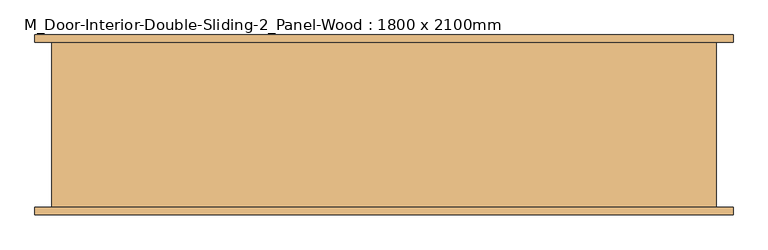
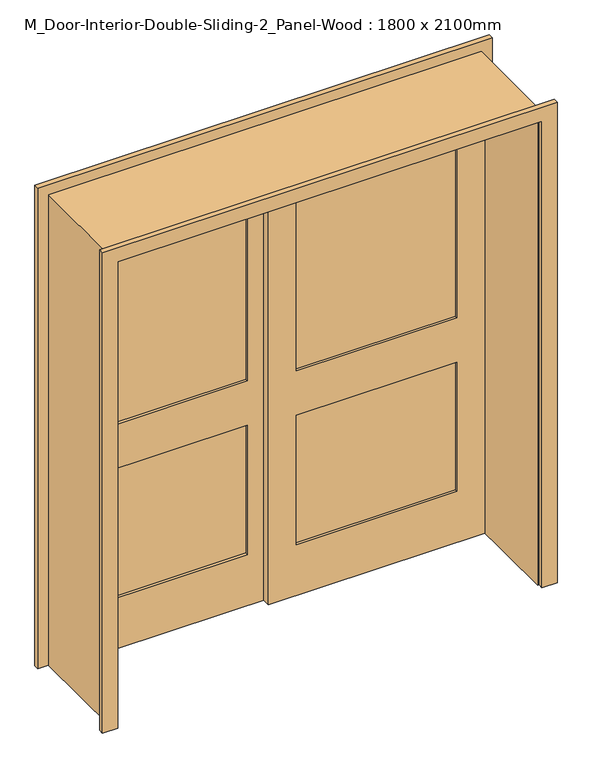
"""IFC4 building model written with IfcOpenShell, lengths in millimetres: door geometry, M_Door-Interior-Double-Sliding-2_Panel-Wood : 1800 x 2100mm."""

from ifc_helpers import new_model, si_unit, frame, origin, place, context, project, spatial, polyline, outline, extrude, source, transform, mapped, element, save


def m_door_interior_double_sliding_2_panel_wood_1800_x_2100mm_ffb2e57d(model_context):
    return source(origin(), model_context, "Body", "SweptSolid", [
        extrude(outline(polyline([(780.0, 168.4916667), (94.6, 168.4916667), (94.6, 180.1583333), (780.0, 180.1583333), (780.0, 168.4916667)])), frame((0.0, 0.0, 1014.4), z_axis=(0.0, 0.0, 1.0), x_axis=(1.0, 0.0, 0.0)), (0.0, 0.0, 1.0), 965.6),
        extrude(outline(polyline([(780.0, 168.4916667), (94.6, 168.4916667), (94.6, 180.1583333), (780.0, 180.1583333), (780.0, 168.4916667)])), frame((0.0, 0.0, 230.0), z_axis=(0.0, 0.0, 1.0), x_axis=(1.0, 0.0, 0.0)), (0.0, 0.0, 1.0), 584.4),
        extrude(outline(polyline([(2100.0, -25.4), (0.0, -25.4), (0.0, 900.0), (2100.0, 900.0), (2100.0, -25.4)]), holes=[polyline([(1980.0, 94.6), (1980.0, 780.0), (1014.4, 780.0), (1014.4, 94.6), (1980.0, 94.6)]), polyline([(814.4, 94.6), (814.4, 780.0), (230.0, 780.0), (230.0, 94.6), (814.4, 94.6)])]), frame((0.0, 156.825, 0.0), z_axis=(0.0, 1.0, 0.0), x_axis=(0.0, 0.0, 1.0)), (0.0, 0.0, 1.0), 35.0),
        extrude(outline(polyline([(-94.6, 203.4916667), (-780.0, 203.4916667), (-780.0, 215.1583333), (-94.6, 215.1583333), (-94.6, 203.4916667)])), frame((0.0, 0.0, 1014.4), z_axis=(0.0, 0.0, 1.0), x_axis=(1.0, 0.0, 0.0)), (0.0, 0.0, 1.0), 965.6),
        extrude(outline(polyline([(-94.6, 203.4916667), (-780.0, 203.4916667), (-780.0, 215.1583333), (-94.6, 215.1583333), (-94.6, 203.4916667)])), frame((0.0, 0.0, 230.0), z_axis=(0.0, 0.0, 1.0), x_axis=(1.0, 0.0, 0.0)), (0.0, 0.0, 1.0), 584.4),
        extrude(outline(polyline([(2100.0, -900.0), (0.0, -900.0), (0.0, 25.4), (2100.0, 25.4), (2100.0, -900.0)]), holes=[polyline([(1980.0, -780.0), (1980.0, -94.6), (1014.4, -94.6), (1014.4, -780.0), (1980.0, -780.0)]), polyline([(814.4, -780.0), (814.4, -94.6), (230.0, -94.6), (230.0, -780.0), (814.4, -780.0)])]), frame((0.0, 191.825, 0.0), z_axis=(0.0, 1.0, 0.0), x_axis=(0.0, 0.0, 1.0)), (0.0, 0.0, 1.0), 35.0),
        extrude(outline(polyline([(0.0, 900.0), (0.0, 925.0), (2125.0, 925.0), (2125.0, -925.0), (0.0, -925.0), (0.0, -900.0), (2100.0, -900.0), (2100.0, 900.0), (0.0, 900.0)])), frame((0.0, -233.175, 0.0), z_axis=(0.0, 1.0, 0.0), x_axis=(0.0, 0.0, 1.0)), (0.0, 0.0, 1.0), 460.0),
        extrude(outline(polyline([(0.0, 906.35), (0.0, 971.35), (2171.35, 971.35), (2171.35, -971.35), (0.0, -971.35), (0.0, -906.35), (2106.35, -906.35), (2106.35, 906.35), (0.0, 906.35)])), frame((0.0, -253.175, 0.0), z_axis=(0.0, 1.0, 0.0), x_axis=(0.0, 0.0, 1.0)), (0.0, 0.0, 1.0), 20.0),
        extrude(outline(polyline([(0.0, 906.35), (0.0, 971.35), (2171.35, 971.35), (2171.35, -971.35), (0.0, -971.35), (0.0, -906.35), (2106.35, -906.35), (2106.35, 906.35), (0.0, 906.35)])), frame((0.0, 226.825, 0.0), z_axis=(0.0, 1.0, 0.0), x_axis=(0.0, 0.0, 1.0)), (0.0, 0.0, 1.0), 20.0),
    ])


if __name__ == "__main__":
    model = new_model("IFC4")
    model_context = context("Model", 3, world=origin())
    ifc_project = project(units=[si_unit("LENGTHUNIT", "METRE", prefix="MILLI")], contexts=[model_context])
    site = spatial("IfcSite", under=ifc_project)
    building = spatial("IfcBuilding", under=site)
    placement = place(None, origin())
    m_door_interior_double_sliding_2_panel_wood_1800_x_2100mm_shape = m_door_interior_double_sliding_2_panel_wood_1800_x_2100mm_ffb2e57d(model_context)
    element("IfcDoor", 1, ObjectType="M_Door-Interior-Double-Sliding-2_Panel-Wood : 1800 x 2100mm", at=placement, inside=building, context=model_context, shape_type="MappedRepresentation", body=[
        mapped(m_door_interior_double_sliding_2_panel_wood_1800_x_2100mm_shape, transform((0.0, 0.0, 0.0), x_axis=(1.0, 0.0, 0.0), y_axis=(0.0, 1.0, 0.0), z_axis=(0.0, 0.0, 1.0))),
    ])
    save(model, "model.ifc")
